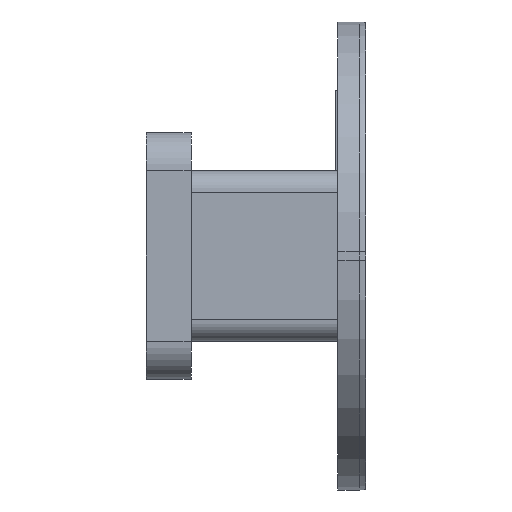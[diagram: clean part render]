
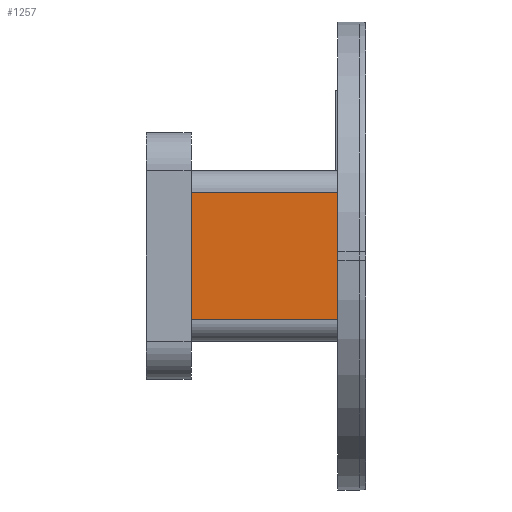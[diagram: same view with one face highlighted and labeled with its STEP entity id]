
A CAD part, front view. The second image highlights one B-rep face of the part: STEP entity #1257.
In plain terms, the highlighted planar face has unit normal (0, -1, 0).
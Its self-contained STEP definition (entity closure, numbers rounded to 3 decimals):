
#147=FACE_OUTER_BOUND('',#223,.T.);
#223=EDGE_LOOP('',(#999,#1000,#1001,#1002));
#307=LINE('',#1973,#431);
#331=LINE('',#2045,#455);
#333=LINE('',#2052,#457);
#334=LINE('',#2053,#458);
#431=VECTOR('',#1569,1.);
#455=VECTOR('',#1651,1.);
#457=VECTOR('',#1659,1.);
#458=VECTOR('',#1660,1.);
#565=VERTEX_POINT('',#1970);
#566=VERTEX_POINT('',#1972);
#585=VERTEX_POINT('',#2043);
#587=VERTEX_POINT('',#2051);
#700=EDGE_CURVE('',#565,#566,#307,.T.);
#736=EDGE_CURVE('',#566,#585,#331,.T.);
#739=EDGE_CURVE('',#587,#585,#333,.T.);
#740=EDGE_CURVE('',#565,#587,#334,.T.);
#999=ORIENTED_EDGE('',*,*,#739,.T.);
#1000=ORIENTED_EDGE('',*,*,#736,.F.);
#1001=ORIENTED_EDGE('',*,*,#700,.F.);
#1002=ORIENTED_EDGE('',*,*,#740,.T.);
#1201=PLANE('',#1381);
#1257=ADVANCED_FACE('',(#147),#1201,.T.);
#1381=AXIS2_PLACEMENT_3D('',#2050,#1657,#1658);
#1569=DIRECTION('',(0.,0.,-1.));
#1651=DIRECTION('',(-1.,0.,0.));
#1657=DIRECTION('center_axis',(0.,-1.,0.));
#1658=DIRECTION('ref_axis',(0.,0.,1.));
#1659=DIRECTION('',(0.,0.,-1.));
#1660=DIRECTION('',(-1.,0.,0.));
#1970=CARTESIAN_POINT('',(39.3,-13.4,-10.5));
#1972=CARTESIAN_POINT('',(39.3,-13.4,-13.5));
#1973=CARTESIAN_POINT('',(39.3,-13.4,-12.75));
#2043=CARTESIAN_POINT('',(35.85,-13.4,-13.5));
#2045=CARTESIAN_POINT('',(39.5,-13.4,-13.5));
#2050=CARTESIAN_POINT('Origin',(39.5,-13.4,-13.5));
#2051=CARTESIAN_POINT('',(35.85,-13.4,-10.5));
#2052=CARTESIAN_POINT('',(35.85,-13.4,-12.75));
#2053=CARTESIAN_POINT('',(39.5,-13.4,-10.5));
